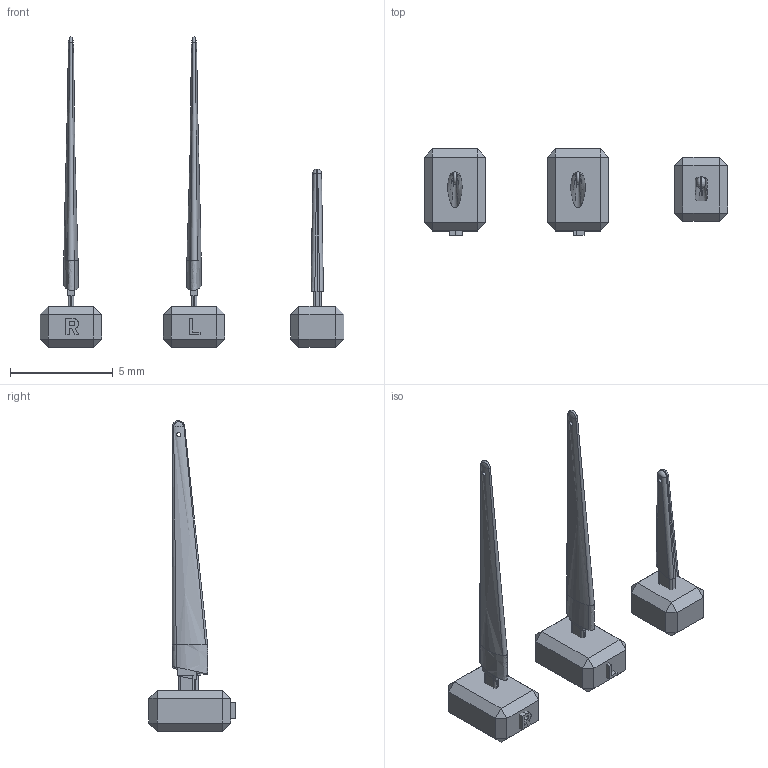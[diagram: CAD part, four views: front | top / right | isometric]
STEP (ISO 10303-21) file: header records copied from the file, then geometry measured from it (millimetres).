
FILE_DESCRIPTION(/* description */ (''),/* implementation_level */ '2;1');
FILE_NAME(/* name */ 'F6F-XA~2',/* time_stamp */ '2021-04-27T21:41:42+02:00',/* author */ (''),/* organization */ (''),/* preprocessor_version */ 'ST-DEVELOPER v16.5',/* originating_system */ '',/* authorisation */ '');
FILE_SCHEMA (('CONFIG_CONTROL_DESIGN'));
Length unit declared in the file: millimetre
Products named in the file (1): Document
Bounding box: 14.8 x 4.2 x 15.13 mm (x, y, z)
Volume: 75.4 mm3; surface area: 245.1 mm2
Topology: 13 solids, 13 shells, 185 faces, 411 edges, 228 vertices
Faces by surface type: plane 111, bspline 52, cylinder 22
Entity records: 7507 total; most frequent: CARTESIAN_POINT 4641, ORIENTED_EDGE 774, EDGE_CURVE 387, B_SPLINE_CURVE_WITH_KNOTS 343, VERTEX_POINT 228, EDGE_LOOP 193, ADVANCED_FACE 185, FACE_OUTER_BOUND 185
